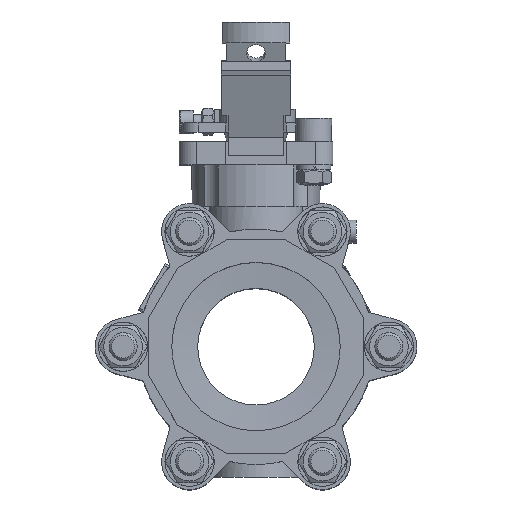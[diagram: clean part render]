
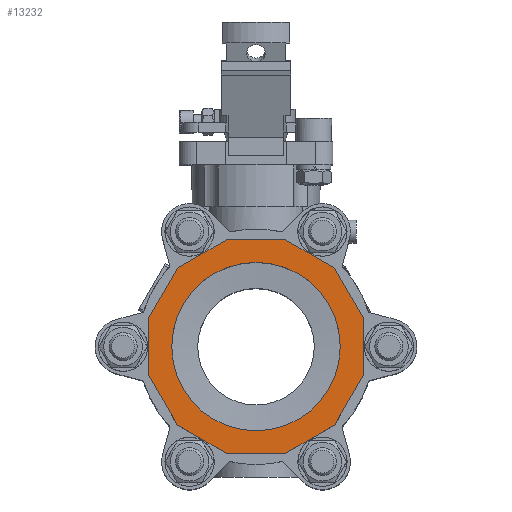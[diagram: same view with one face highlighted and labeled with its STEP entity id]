
A CAD part, top view. The second image highlights one B-rep face of the part: STEP entity #13232.
In plain terms, the highlighted planar face has unit normal (0, 0, 1).
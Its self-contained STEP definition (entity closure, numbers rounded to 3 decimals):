
#465=FACE_BOUND('',#2233,.T.);
#682=PLANE('',#14226);
#1453=FACE_OUTER_BOUND('',#2232,.T.);
#2232=EDGE_LOOP('',(#10348,#10349,#10350,#10351,#10352,#10353,#10354,#10355,
#10356,#10357,#10358,#10359));
#2233=EDGE_LOOP('',(#10360,#10361));
#3018=CIRCLE('',#14227,36.113);
#3019=CIRCLE('',#14228,36.113);
#3830=LINE('',#20946,#4923);
#3832=LINE('',#20950,#4925);
#3834=LINE('',#20954,#4927);
#3836=LINE('',#20958,#4929);
#3838=LINE('',#20962,#4931);
#3840=LINE('',#20966,#4933);
#3843=LINE('',#20971,#4936);
#3845=LINE('',#20975,#4938);
#3847=LINE('',#20979,#4940);
#3849=LINE('',#20983,#4942);
#3851=LINE('',#20987,#4944);
#3852=LINE('',#20989,#4945);
#4923=VECTOR('',#16500,10.);
#4925=VECTOR('',#16504,10.);
#4927=VECTOR('',#16508,10.);
#4929=VECTOR('',#16512,10.);
#4931=VECTOR('',#16516,10.);
#4933=VECTOR('',#16520,10.);
#4936=VECTOR('',#16525,10.);
#4938=VECTOR('',#16529,10.);
#4940=VECTOR('',#16533,10.);
#4942=VECTOR('',#16537,10.);
#4944=VECTOR('',#16541,10.);
#4945=VECTOR('',#16544,10.);
#6137=VERTEX_POINT('',#20943);
#6138=VERTEX_POINT('',#20945);
#6139=VERTEX_POINT('',#20949);
#6140=VERTEX_POINT('',#20953);
#6141=VERTEX_POINT('',#20957);
#6142=VERTEX_POINT('',#20961);
#6143=VERTEX_POINT('',#20965);
#6144=VERTEX_POINT('',#20969);
#6145=VERTEX_POINT('',#20973);
#6146=VERTEX_POINT('',#20977);
#6147=VERTEX_POINT('',#20981);
#6148=VERTEX_POINT('',#20985);
#6149=VERTEX_POINT('',#20991);
#6150=VERTEX_POINT('',#20992);
#7683=EDGE_CURVE('',#6138,#6137,#3830,.T.);
#7685=EDGE_CURVE('',#6139,#6138,#3832,.T.);
#7687=EDGE_CURVE('',#6140,#6139,#3834,.T.);
#7689=EDGE_CURVE('',#6141,#6140,#3836,.T.);
#7691=EDGE_CURVE('',#6142,#6141,#3838,.T.);
#7693=EDGE_CURVE('',#6143,#6142,#3840,.T.);
#7696=EDGE_CURVE('',#6137,#6144,#3843,.T.);
#7698=EDGE_CURVE('',#6144,#6145,#3845,.T.);
#7700=EDGE_CURVE('',#6145,#6146,#3847,.T.);
#7702=EDGE_CURVE('',#6146,#6147,#3849,.T.);
#7704=EDGE_CURVE('',#6147,#6148,#3851,.T.);
#7705=EDGE_CURVE('',#6148,#6143,#3852,.T.);
#7706=EDGE_CURVE('',#6149,#6150,#3018,.T.);
#7707=EDGE_CURVE('',#6150,#6149,#3019,.T.);
#10348=ORIENTED_EDGE('',*,*,#7683,.T.);
#10349=ORIENTED_EDGE('',*,*,#7696,.T.);
#10350=ORIENTED_EDGE('',*,*,#7698,.T.);
#10351=ORIENTED_EDGE('',*,*,#7700,.T.);
#10352=ORIENTED_EDGE('',*,*,#7702,.T.);
#10353=ORIENTED_EDGE('',*,*,#7704,.T.);
#10354=ORIENTED_EDGE('',*,*,#7705,.T.);
#10355=ORIENTED_EDGE('',*,*,#7693,.T.);
#10356=ORIENTED_EDGE('',*,*,#7691,.T.);
#10357=ORIENTED_EDGE('',*,*,#7689,.T.);
#10358=ORIENTED_EDGE('',*,*,#7687,.T.);
#10359=ORIENTED_EDGE('',*,*,#7685,.T.);
#10360=ORIENTED_EDGE('',*,*,#7706,.F.);
#10361=ORIENTED_EDGE('',*,*,#7707,.F.);
#13232=ADVANCED_FACE('',(#1453,#465),#682,.T.);
#14226=AXIS2_PLACEMENT_3D('',#20990,#16545,#16546);
#14227=AXIS2_PLACEMENT_3D('',#20993,#16547,#16548);
#14228=AXIS2_PLACEMENT_3D('',#20994,#16549,#16550);
#16500=DIRECTION('',(1.,0.,0.));
#16504=DIRECTION('',(0.866,-0.5,0.));
#16508=DIRECTION('',(0.5,-0.866,0.));
#16512=DIRECTION('',(0.,-1.,0.));
#16516=DIRECTION('',(-0.5,-0.866,0.));
#16520=DIRECTION('',(-0.866,-0.5,0.));
#16525=DIRECTION('',(0.866,0.5,0.));
#16529=DIRECTION('',(0.5,0.866,0.));
#16533=DIRECTION('',(0.,1.,0.));
#16537=DIRECTION('',(-0.5,0.866,0.));
#16541=DIRECTION('',(-0.866,0.5,0.));
#16544=DIRECTION('',(-1.,0.,0.));
#16545=DIRECTION('center_axis',(0.,0.,
1.));
#16546=DIRECTION('ref_axis',(-0.866,-0.5,0.));
#16547=DIRECTION('center_axis',(0.,0.,
1.));
#16548=DIRECTION('ref_axis',(0.866,0.5,0.));
#16549=DIRECTION('center_axis',(0.,0.,
1.));
#16550=DIRECTION('ref_axis',(0.866,0.5,0.));
#20943=CARTESIAN_POINT('',(1.977,-54.39,72.5));
#20945=CARTESIAN_POINT('',(-22.675,-54.39,72.5));
#20946=CARTESIAN_POINT('',(4.842,-54.39,72.5));
#20949=CARTESIAN_POINT('',(-44.023,-42.064,72.5));
#20950=CARTESIAN_POINT('',(-14.47,-59.127,72.5));
#20953=CARTESIAN_POINT('',(-56.349,-20.716,72.5));
#20954=CARTESIAN_POINT('',(-38.077,-52.365,72.5));
#20957=CARTESIAN_POINT('',(-56.349,3.936,72.5));
#20958=CARTESIAN_POINT('',(-56.349,-30.19,72.5));
#20961=CARTESIAN_POINT('',(-44.023,25.284,72.5));
#20962=CARTESIAN_POINT('',(-57.782,1.454,72.5));
#20965=CARTESIAN_POINT('',(-22.675,37.61,72.5));
#20966=CARTESIAN_POINT('',(-38.686,28.366,72.5));
#20969=CARTESIAN_POINT('',(23.325,-42.064,72.5));
#20971=CARTESIAN_POINT('',(17.988,-45.146,72.5));
#20973=CARTESIAN_POINT('',(35.651,-20.716,72.5));
#20975=CARTESIAN_POINT('',(28.055,-33.872,72.5));
#20977=CARTESIAN_POINT('',(35.651,3.936,72.5));
#20979=CARTESIAN_POINT('',(35.651,-17.865,72.5));
#20981=CARTESIAN_POINT('',(23.325,25.284,72.5));
#20983=CARTESIAN_POINT('',(35.435,4.31,72.5));
#20985=CARTESIAN_POINT('',(1.977,37.61,72.5));
#20987=CARTESIAN_POINT('',(20.856,26.71,72.5));
#20989=CARTESIAN_POINT('',(-7.484,37.61,72.5));
#20990=CARTESIAN_POINT('Origin',(7.707,-39.665,72.5));
#20991=CARTESIAN_POINT('',(7.707,-39.665,72.5));
#20992=CARTESIAN_POINT('',(-28.406,22.885,72.5));
#20993=CARTESIAN_POINT('Origin',(-10.349,-8.39,72.5));
#20994=CARTESIAN_POINT('Origin',(-10.349,-8.39,72.5));
